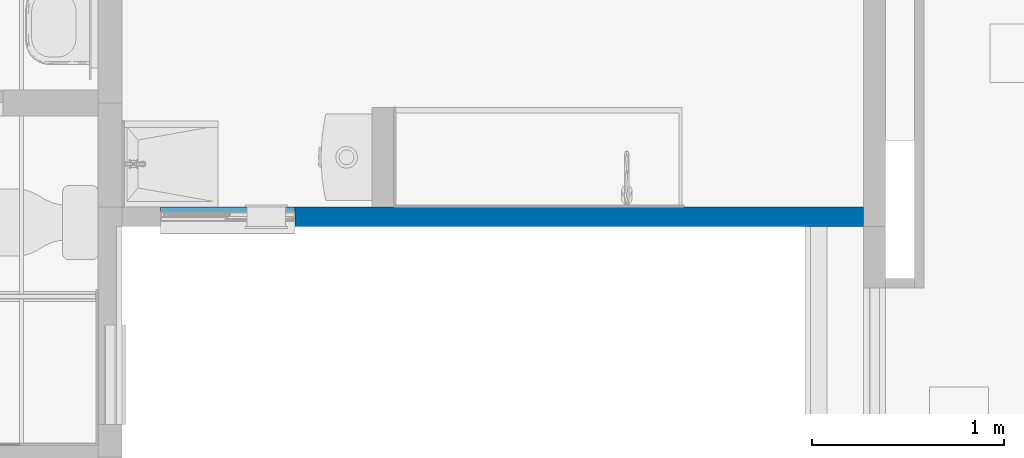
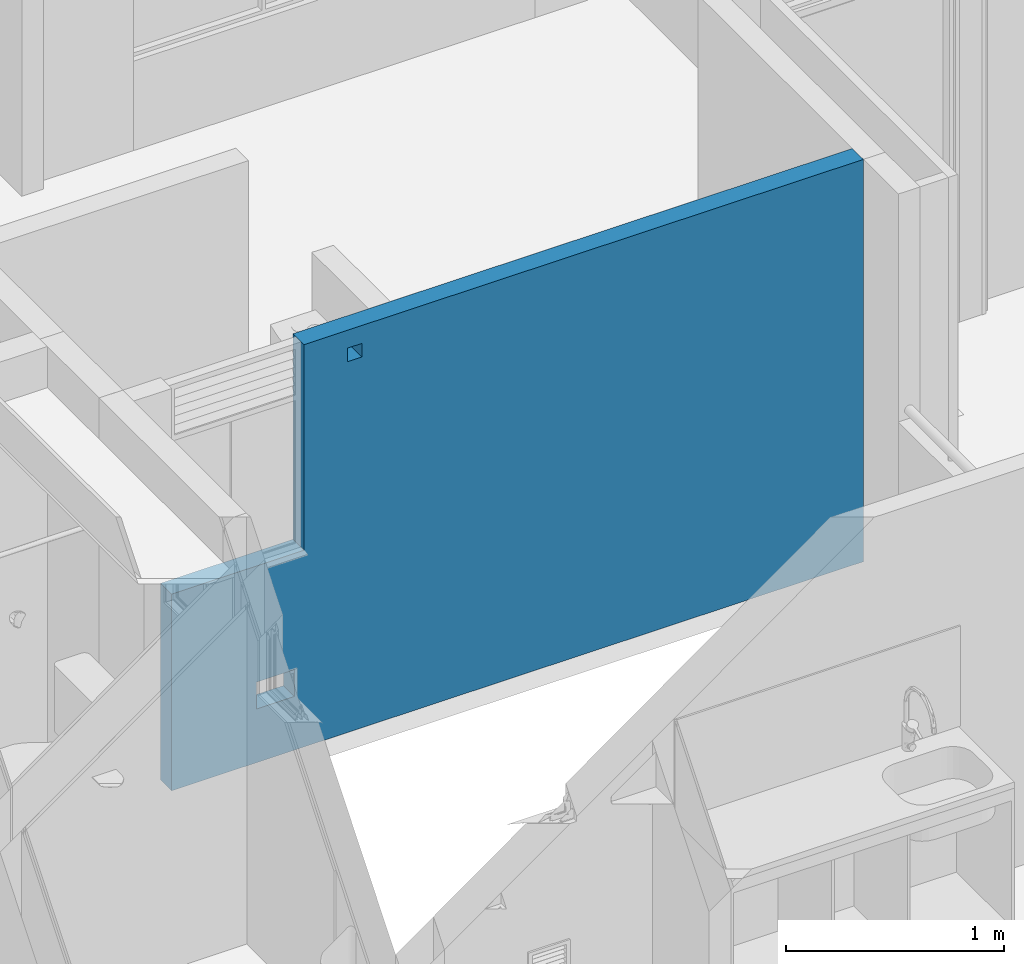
# One storey, part 9 of 51: 1 wall, 3 openings.
"""IFC4 building model written with IfcOpenShell, lengths in metres."""

from ifc_helpers import new_model, entity, si_unit, converted_unit, derived_unit, direction, frame, origin, place, context, subcontext, project, spatial, indexed_curve, outline, extrude, material, constituent, constituent_set, type_object, element, save


model = new_model("IFC4")

# Units and contexts
model_context = context("Model", 3, precision=1e-05, world=origin(), true_north=direction((6.123031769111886e-17, 1.0)))
body_context = subcontext(model_context, "Body", "Model", "MODEL_VIEW")
ifc_project = project(units=[si_unit("LENGTHUNIT", "METRE"), si_unit("AREAUNIT", "SQUARE_METRE"), si_unit("VOLUMEUNIT", "CUBIC_METRE"), converted_unit("PLANEANGLEUNIT", "DEGREE", entity("IfcRatioMeasure", 0.017453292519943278), si_unit("PLANEANGLEUNIT", "RADIAN"), dimensions=[0, 0, 0, 0, 0, 0, 0]), si_unit("MASSUNIT", "GRAM", prefix="KILO"), derived_unit("MASSDENSITYUNIT", [(si_unit("MASSUNIT", "GRAM", prefix="KILO"), 1), (si_unit("LENGTHUNIT", "METRE"), -3)]), derived_unit("IONCONCENTRATIONUNIT", [(si_unit("MASSUNIT", "GRAM", prefix="KILO"), 1), (si_unit("LENGTHUNIT", "METRE"), -3)]), derived_unit("MOMENTOFINERTIAUNIT", [(si_unit("LENGTHUNIT", "METRE"), 4)]), si_unit("TIMEUNIT", "SECOND"), si_unit("FREQUENCYUNIT", "HERTZ"), si_unit("THERMODYNAMICTEMPERATUREUNIT", "DEGREE_CELSIUS"), derived_unit("THERMALTRANSMITTANCEUNIT", [(si_unit("MASSUNIT", "GRAM", prefix="KILO"), 1), (si_unit("THERMODYNAMICTEMPERATUREUNIT", "KELVIN"), -1), (si_unit("TIMEUNIT", "SECOND"), -3)]), derived_unit("THERMALCONDUCTANCEUNIT", [(si_unit("MASSUNIT", "GRAM", prefix="KILO"), 1), (si_unit("THERMODYNAMICTEMPERATUREUNIT", "KELVIN"), -1), (si_unit("TIMEUNIT", "SECOND"), -3), (si_unit("LENGTHUNIT", "METRE"), 1)]), derived_unit("VOLUMETRICFLOWRATEUNIT", [(si_unit("LENGTHUNIT", "METRE"), 3), (si_unit("TIMEUNIT", "SECOND"), -1)]), derived_unit("MASSFLOWRATEUNIT", [(si_unit("MASSUNIT", "GRAM", prefix="KILO"), 1), (si_unit("TIMEUNIT", "SECOND"), -1)]), derived_unit("ROTATIONALFREQUENCYUNIT", [(si_unit("TIMEUNIT", "SECOND"), -1)]), si_unit("ELECTRICCURRENTUNIT", "AMPERE"), si_unit("ELECTRICVOLTAGEUNIT", "VOLT"), si_unit("POWERUNIT", "WATT"), si_unit("FORCEUNIT", "NEWTON", prefix="KILO"), si_unit("ILLUMINANCEUNIT", "LUX"), si_unit("LUMINOUSFLUXUNIT", "LUMEN"), si_unit("LUMINOUSINTENSITYUNIT", "CANDELA"), derived_unit("USERDEFINED", [(si_unit("MASSUNIT", "GRAM", prefix="KILO"), -1), (si_unit("LENGTHUNIT", "METRE"), -2), (si_unit("TIMEUNIT", "SECOND"), 3), (si_unit("LUMINOUSFLUXUNIT", "LUMEN"), 1)]), derived_unit("USERDEFINED", [(si_unit("MASSUNIT", "GRAM", prefix="KILO"), 1), (si_unit("TIMEUNIT", "SECOND"), -3), (si_unit("LENGTHUNIT", "METRE"), 3), (si_unit("ELECTRICCURRENTUNIT", "AMPERE"), -2)]), derived_unit("SOUNDPOWERUNIT", [(si_unit("MASSUNIT", "GRAM", prefix="KILO"), 1), (si_unit("TIMEUNIT", "SECOND"), -3), (si_unit("LENGTHUNIT", "METRE"), 2)]), derived_unit("SOUNDPRESSUREUNIT", [(si_unit("MASSUNIT", "GRAM", prefix="KILO"), 1), (si_unit("LENGTHUNIT", "METRE"), -1), (si_unit("TIMEUNIT", "SECOND"), -2)]), derived_unit("LINEARVELOCITYUNIT", [(si_unit("LENGTHUNIT", "METRE"), 1), (si_unit("TIMEUNIT", "SECOND"), -1)]), si_unit("PRESSUREUNIT", "PASCAL"), derived_unit("USERDEFINED", [(si_unit("MASSUNIT", "GRAM", prefix="KILO"), 1), (si_unit("LENGTHUNIT", "METRE"), -2), (si_unit("TIMEUNIT", "SECOND"), -2)]), derived_unit("LINEARFORCEUNIT", [(si_unit("MASSUNIT", "GRAM", prefix="KILO"), 1), (si_unit("TIMEUNIT", "SECOND"), -2)]), derived_unit("PLANARFORCEUNIT", [(si_unit("MASSUNIT", "GRAM", prefix="KILO"), 1), (si_unit("LENGTHUNIT", "METRE"), -1), (si_unit("TIMEUNIT", "SECOND"), -2)]), derived_unit("SPECIFICHEATCAPACITYUNIT", [(si_unit("THERMODYNAMICTEMPERATUREUNIT", "KELVIN"), -1), (si_unit("LENGTHUNIT", "METRE"), 2), (si_unit("TIMEUNIT", "SECOND"), -2)]), derived_unit("HEATINGVALUEUNIT", [(si_unit("LENGTHUNIT", "METRE"), 2), (si_unit("TIMEUNIT", "SECOND"), -2)]), derived_unit("VAPORPERMEABILITYUNIT", [(si_unit("LENGTHUNIT", "METRE"), -1), (si_unit("TIMEUNIT", "SECOND"), 1)]), derived_unit("DYNAMICVISCOSITYUNIT", [(si_unit("MASSUNIT", "GRAM", prefix="KILO"), 1), (si_unit("TIMEUNIT", "SECOND"), -1), (si_unit("LENGTHUNIT", "METRE"), -1)]), derived_unit("THERMALEXPANSIONCOEFFICIENTUNIT", [(si_unit("THERMODYNAMICTEMPERATUREUNIT", "KELVIN"), -1)]), derived_unit("MODULUSOFELASTICITYUNIT", [(si_unit("MASSUNIT", "GRAM", prefix="KILO"), 1), (si_unit("LENGTHUNIT", "METRE"), -1), (si_unit("TIMEUNIT", "SECOND"), -2)]), derived_unit("ISOTHERMALMOISTURECAPACITYUNIT", [(si_unit("LENGTHUNIT", "METRE"), 3), (si_unit("MASSUNIT", "GRAM", prefix="KILO"), -1)]), derived_unit("MOISTUREDIFFUSIVITYUNIT", [(si_unit("TIMEUNIT", "SECOND"), -1), (si_unit("LENGTHUNIT", "METRE"), 2)])], contexts=[model_context])

# Site, building, storey
site_placement = place(None, origin())
site = spatial("IfcSite", under=ifc_project, at=site_placement, Name="Default", CompositionType="ELEMENT")
building_placement = place(site_placement, origin())
building = spatial("IfcBuilding", under=site, at=building_placement, CompositionType="ELEMENT")
storey_placement = place(building_placement, frame((0.0, 0.0, 2.350000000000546)))
storey = spatial("IfcBuildingStorey", under=building, at=storey_placement, Name="Nivel 2", CompositionType="ELEMENT", Elevation=2.350000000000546)

# Wall, openings
ifc_material_1 = material(Name="PINTURA BLANCA PARA EXTERIORES", Category="Materials")
ifc_constituent_1 = constituent(ifc_material_1, Name="PINTURA BLANCA PARA EXTERIORES", Category="Materials")
ifc_material_2 = material(Name="Concreto (Aire)", Category="Materials")
ifc_constituent_2 = constituent(ifc_material_2, Name="Concreto (Aire)", Category="Materials")
ifc_constituent_set = constituent_set(constituents=[ifc_constituent_1, ifc_constituent_2], Name="Basic Wall:B2010 - 0.10m - MI Concreto- Concreto+repello+ pintura blanca")
wall_type = type_object("IfcWallType", Name="Basic Wall:B2010 - 0.10m - MI Concreto- Concreto+repello+ pintura blanca", PredefinedType="STANDARD", material=ifc_constituent_set)
wall_placement = place(storey_placement, frame((7.947500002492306, -5.175000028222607, 0.0), z_axis=(0.0, 0.0, 1.0), x_axis=(-1.0, 0.0, 0.0)))
wall = element("IfcWall", 1, at=wall_placement, inside=storey, type_object=wall_type, material=ifc_constituent_set, Name="Basic Wall:B2010 - 0.10m - MI Concreto- Concreto+repello+ pintura blanca", ObjectType="Basic Wall:B2010 - 0.10m - MI Concreto- Concreto+repello+ pintura blanca", PredefinedType="NOTDEFINED", context=body_context, shape_type="SweptSolid", body=[
    extrude(outline(indexed_curve([(-0.8374999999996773, -1.943125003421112), (0.2624999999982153, -1.943125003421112), (0.2624999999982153, -1.2431250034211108), (1.4125000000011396, -1.2431250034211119), (1.4125000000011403, 1.716875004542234), (-0.8374999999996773, 1.716875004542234), (-0.8374999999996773, 1.5268750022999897), (-0.8374999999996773, 1.41187500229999), (-0.8374999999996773, -1.943125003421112)], self_intersect=False), holes=[indexed_curve([(-0.5374999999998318, -1.2931250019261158), (-0.38749999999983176, -1.2931250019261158), (-0.38749999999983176, -1.4931250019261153), (-0.5374999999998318, -1.4931250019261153), (-0.5374999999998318, -1.2931250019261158)], self_intersect=False), indexed_curve([(1.3125000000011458, -0.9368875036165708), (1.3125000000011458, -1.012887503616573), (1.236500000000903, -1.012887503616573), (1.236500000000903, -0.9368875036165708), (1.3125000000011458, -0.9368875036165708)], self_intersect=False)]), frame((1.7168750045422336, 0.050500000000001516, 0.837499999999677), z_axis=(0.0, -1.0, 0.0), x_axis=(0.0, 0.0, 1.0)), (0.0, 0.0, 1.0), 0.0010000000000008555),
    extrude(outline(indexed_curve([(-0.7533333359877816, -1.1333333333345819), (2.2066666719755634, -1.1333333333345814), (2.2066666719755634, 1.1166666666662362), (-1.4533333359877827, 1.1166666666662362), (-1.4533333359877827, 0.01666666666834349), (-0.7533333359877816, 0.01666666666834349), (-0.7533333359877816, -1.1333333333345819)], self_intersect=False), holes=[indexed_curve([(-0.4470958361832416, -1.0333333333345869), (-0.5230958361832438, -1.0333333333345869), (-0.5230958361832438, -0.9573333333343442), (-0.4470958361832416, -0.9573333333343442), (-0.4470958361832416, -1.0333333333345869)], self_intersect=False), indexed_curve([(-0.8033333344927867, 0.6666666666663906), (-1.0033333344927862, 0.6666666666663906), (-1.0033333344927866, 0.8166666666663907), (-0.8033333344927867, 0.8166666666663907), (-0.8033333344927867, 0.6666666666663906)], self_intersect=False)]), frame((2.2066666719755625, 0.04949999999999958, 1.1166666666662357), z_axis=(0.0, -1.0, 0.0), x_axis=(-1.0, 0.0, 0.0)), (0.0, 0.0, 1.0), 0.09999999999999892),
])
opening_1_placement = place(wall_placement, origin())
element("IfcOpeningElement", 2, at=opening_1_placement, cuts=wall, Name="Basic Wall:B2010 - 0.10m - MI Concreto- Concreto+repello+ pintura blanca", PredefinedType="OPENING", context=body_context, shape_type="SweptSolid", body=[
    extrude(outline(indexed_curve([(-0.03800000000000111, -0.038000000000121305), (0.03800000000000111, -0.038000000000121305), (0.03800000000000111, 0.038000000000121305), (-0.03800000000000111, 0.038000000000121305), (-0.03800000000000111, -0.038000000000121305)], self_intersect=False)), frame((2.6917625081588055, 0.05050000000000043, 2.1120000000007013), z_axis=(0.0, -1.0, 0.0), x_axis=(1.0, 0.0, 0.0)), (0.0, 0.0, 1.0), 0.10100000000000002),
])
opening_2_placement = place(wall_placement, frame((2.9600000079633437, -0.05050000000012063, 1.099999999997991)))
element("IfcOpeningElement", 3, at=opening_2_placement, cuts=wall, Name="B2020 - Ventana corrediza con rejilla - Aluminio+Vidrio:B2020 - 1.15 x 0.70 - Ventana corrediza con rejilla - Aluminio+Vidrio:1", PredefinedType="OPENING", context=body_context, shape_type="SweptSolid", body=[
    extrude(outline(indexed_curve([(0.0, 0.699999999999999), (0.0, 0.0), (1.1499999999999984, 0.0), (1.1499999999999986, 0.699999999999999), (0.0, 0.699999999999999)], self_intersect=False)), frame((0.0, 0.0, 0.0), z_axis=(0.0, 1.0, 0.0), x_axis=(0.0, 0.0, 1.0)), (0.0, 0.0, 1.0), 0.10100000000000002),
])
opening_3_placement = place(wall_placement, frame((3.2100000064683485, 0.05049999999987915, 0.299999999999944)))
element("IfcOpeningElement", 4, at=opening_3_placement, cuts=wall, Name="B2070 - Rejilla de ventilación - Aluminio:B2070 - 0.15m x 0.20m - Rejilla de ventilación - Aluminio:1", PredefinedType="OPENING", context=body_context, shape_type="SweptSolid", body=[
    extrude(outline(indexed_curve([(0.0, 0.19999999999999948), (0.0, 0.0), (0.15000000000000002, 0.0), (0.14999999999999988, 0.19999999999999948), (0.0, 0.19999999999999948)], self_intersect=False)), frame((0.0, 0.0, 0.0), z_axis=(0.0, -1.0, 0.0), x_axis=(0.0, 0.0, 1.0)), (0.0, 0.0, 1.0), 0.10100000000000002),
])

save(model, "model.ifc")
